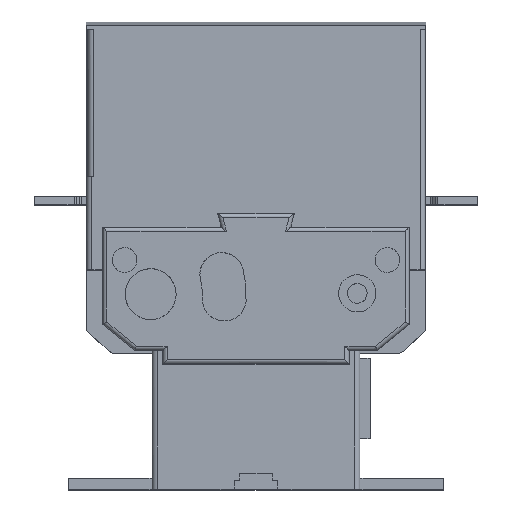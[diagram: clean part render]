
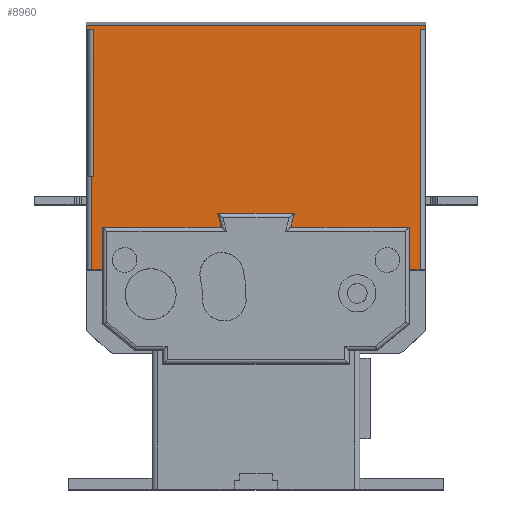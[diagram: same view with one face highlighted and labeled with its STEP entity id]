
A CAD part, top view. The second image highlights one B-rep face of the part: STEP entity #8960.
In plain terms, the highlighted planar face has unit normal (0, 0, 1).
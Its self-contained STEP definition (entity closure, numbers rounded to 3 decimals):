
#391 = CARTESIAN_POINT ( 'NONE',  ( 681.525, 542.016, 152. ) ) ;
#1598 = CARTESIAN_POINT ( 'NONE',  ( 803.525, 597.336, 152. ) ) ;
#1603 = LINE ( 'NONE', #1598, #5645 ) ;
#1607 = DIRECTION ( 'NONE',  ( 0., -1., 0. ) ) ;
#1754 = LINE ( 'NONE', #1756, #5528 ) ;
#1756 = CARTESIAN_POINT ( 'NONE',  ( 679.525, 597.336, 152. ) ) ;
#1757 = DIRECTION ( 'NONE',  ( 0., -1., 0. ) ) ;
#2071 = LINE ( 'NONE', #2074, #5382 ) ;
#2074 = CARTESIAN_POINT ( 'NONE',  ( 789.525, 508.016, 152. ) ) ;
#2105 = DIRECTION ( 'NONE',  ( -1., 0., 0. ) ) ;
#2106 = EDGE_LOOP ( 'NONE', ( #8194, #8195, #8190, #8191, #8192, #7554, #7553, #7570, #7551, #7549, #7555, #8202, #8129, #8131, #8130, #8126, #8127, #8199 ) ) ;
#2766 = VERTEX_POINT ( 'NONE', #7415 ) ;
#2899 = LINE ( 'NONE', #2902, #5161 ) ;
#2902 = CARTESIAN_POINT ( 'NONE',  ( 680.025, 508.016, 152. ) ) ;
#2904 = DIRECTION ( 'NONE',  ( -1., 0., 0. ) ) ;
#2941 = VERTEX_POINT ( 'NONE', #7640 ) ;
#3283 = VERTEX_POINT ( 'NONE', #7633 ) ;
#3841 = VERTEX_POINT ( 'NONE', #12647 ) ;
#3863 = VERTEX_POINT ( 'NONE', #12642 ) ;
#3904 = VERTEX_POINT ( 'NONE', #12626 ) ;
#3911 = VERTEX_POINT ( 'NONE', #12623 ) ;
#3918 = VERTEX_POINT ( 'NONE', #12624 ) ;
#3939 = VERTEX_POINT ( 'NONE', #12617 ) ;
#3946 = VERTEX_POINT ( 'NONE', #12611 ) ;
#3951 = VERTEX_POINT ( 'NONE', #12609 ) ;
#3953 = VERTEX_POINT ( 'NONE', #12612 ) ;
#3959 = VERTEX_POINT ( 'NONE', #12610 ) ;
#3962 = VERTEX_POINT ( 'NONE', #12614 ) ;
#3964 = VERTEX_POINT ( 'NONE', #12605 ) ;
#4016 = VERTEX_POINT ( 'NONE', #12594 ) ;
#4067 = VERTEX_POINT ( 'NONE', #12570 ) ;
#4167 = VERTEX_POINT ( 'NONE', #391 ) ;
#4328 = CARTESIAN_POINT ( 'NONE',  ( 801.025, 592.646, 152. ) ) ;
#4350 = FACE_OUTER_BOUND ( 'NONE', #2106, .T. ) ;
#4351 = PLANE ( 'NONE',  #4766 ) ;
#4354 = DIRECTION ( 'NONE',  ( 0., 0., -1. ) ) ;
#4355 = DIRECTION ( 'NONE',  ( -1., 0., 0. ) ) ;
#4655 = VECTOR ( 'NONE', #4871, 1000. ) ;
#4657 = VECTOR ( 'NONE', #4864, 1000. ) ;
#4658 = VECTOR ( 'NONE', #4858, 1000. ) ;
#4660 = VECTOR ( 'NONE', #4852, 1000. ) ;
#4671 = VECTOR ( 'NONE', #4845, 1000. ) ;
#4680 = VECTOR ( 'NONE', #4833, 1000. ) ;
#4682 = VECTOR ( 'NONE', #4826, 1000. ) ;
#4684 = VECTOR ( 'NONE', #4819, 1000. ) ;
#4686 = VECTOR ( 'NONE', #4813, 1000. ) ;
#4690 = VECTOR ( 'NONE', #4807, 1000. ) ;
#4697 = VECTOR ( 'NONE', #4795, 1000. ) ;
#4708 = VECTOR ( 'NONE', #4839, 1000. ) ;
#4713 = VECTOR ( 'NONE', #4800, 1000. ) ;
#4716 = VECTOR ( 'NONE', #4765, 1000. ) ;
#4744 = LINE ( 'NONE', #4761, #4716 ) ;
#4752 = LINE ( 'NONE', #4835, #4708 ) ;
#4761 = CARTESIAN_POINT ( 'NONE',  ( 682.025, 592.646, 152. ) ) ;
#4765 = DIRECTION ( 'NONE',  ( 0., 1., 0. ) ) ;
#4766 = AXIS2_PLACEMENT_3D ( 'NONE', #4328, #4354, #4355 ) ;
#4776 = LINE ( 'NONE', #4797, #4713 ) ;
#4792 = LINE ( 'NONE', #4794, #4697 ) ;
#4794 = CARTESIAN_POINT ( 'NONE',  ( 801.525, 592.646, 152. ) ) ;
#4795 = DIRECTION ( 'NONE',  ( 0., -1., 0. ) ) ;
#4797 = CARTESIAN_POINT ( 'NONE',  ( 803.525, 595.836, 152. ) ) ;
#4800 = DIRECTION ( 'NONE',  ( 1., 0., 0. ) ) ;
#4802 = LINE ( 'NONE', #4805, #4690 ) ;
#4805 = CARTESIAN_POINT ( 'NONE',  ( 803.525, 597.336, 152. ) ) ;
#4807 = DIRECTION ( 'NONE',  ( 1., 0., 0. ) ) ;
#4808 = LINE ( 'NONE', #4811, #4686 ) ;
#4811 = CARTESIAN_POINT ( 'NONE',  ( 803.525, 595.836, 152. ) ) ;
#4813 = DIRECTION ( 'NONE',  ( 1., 0., 0. ) ) ;
#4815 = LINE ( 'NONE', #4818, #4684 ) ;
#4818 = CARTESIAN_POINT ( 'NONE',  ( 680.025, 542.016, 152. ) ) ;
#4819 = DIRECTION ( 'NONE',  ( -1., 0., 0. ) ) ;
#4821 = LINE ( 'NONE', #4824, #4682 ) ;
#4824 = CARTESIAN_POINT ( 'NONE',  ( 681.525, 592.646, 152. ) ) ;
#4826 = DIRECTION ( 'NONE',  ( 0., 1., 0. ) ) ;
#4828 = LINE ( 'NONE', #4831, #4680 ) ;
#4831 = CARTESIAN_POINT ( 'NONE',  ( 685.525, 592.646, 152. ) ) ;
#4833 = DIRECTION ( 'NONE',  ( 0., -1., 0. ) ) ;
#4835 = CARTESIAN_POINT ( 'NONE',  ( 801.025, 523.616, 152. ) ) ;
#4839 = DIRECTION ( 'NONE',  ( -1., 0., 0. ) ) ;
#4841 = LINE ( 'NONE', #4843, #4671 ) ;
#4843 = CARTESIAN_POINT ( 'NONE',  ( 727.525, 528.616, 152. ) ) ;
#4845 = DIRECTION ( 'NONE',  ( 0.242, -0.97, 0. ) ) ;
#4847 = LINE ( 'NONE', #4850, #4660 ) ;
#4850 = CARTESIAN_POINT ( 'NONE',  ( 801.025, 528.616, 152. ) ) ;
#4852 = DIRECTION ( 'NONE',  ( -1., 0., 0. ) ) ;
#4853 = LINE ( 'NONE', #4856, #4658 ) ;
#4856 = CARTESIAN_POINT ( 'NONE',  ( 754.279, 523.616, 152. ) ) ;
#4858 = DIRECTION ( 'NONE',  ( 0.242, 0.97, 0. ) ) ;
#4860 = LINE ( 'NONE', #4863, #4657 ) ;
#4863 = CARTESIAN_POINT ( 'NONE',  ( 801.025, 523.616, 152. ) ) ;
#4864 = DIRECTION ( 'NONE',  ( -1., 0., 0. ) ) ;
#4866 = LINE ( 'NONE', #4869, #4655 ) ;
#4869 = CARTESIAN_POINT ( 'NONE',  ( 797.525, 592.646, 152. ) ) ;
#4871 = DIRECTION ( 'NONE',  ( 0., 1., 0. ) ) ;
#5161 = VECTOR ( 'NONE', #2904, 1000. ) ;
#5382 = VECTOR ( 'NONE', #2105, 1000. ) ;
#5528 = VECTOR ( 'NONE', #1757, 1000. ) ;
#5645 = VECTOR ( 'NONE', #1607, 1000. ) ;
#7415 = CARTESIAN_POINT ( 'NONE',  ( 754.279, 523.616, 152. ) ) ;
#7549 = ORIENTED_EDGE ( 'NONE', *, *, #8800, .F. ) ;
#7551 = ORIENTED_EDGE ( 'NONE', *, *, #9003, .F. ) ;
#7553 = ORIENTED_EDGE ( 'NONE', *, *, #8995, .F. ) ;
#7554 = ORIENTED_EDGE ( 'NONE', *, *, #9001, .T. ) ;
#7555 = ORIENTED_EDGE ( 'NONE', *, *, #9004, .F. ) ;
#7570 = ORIENTED_EDGE ( 'NONE', *, *, #9002, .T. ) ;
#7633 = CARTESIAN_POINT ( 'NONE',  ( 803.525, 597.336, 152. ) ) ;
#7640 = CARTESIAN_POINT ( 'NONE',  ( 681.525, 508.016, 152. ) ) ;
#8126 = ORIENTED_EDGE ( 'NONE', *, *, #9009, .F. ) ;
#8127 = ORIENTED_EDGE ( 'NONE', *, *, #9010, .F. ) ;
#8129 = ORIENTED_EDGE ( 'NONE', *, *, #9006, .F. ) ;
#8130 = ORIENTED_EDGE ( 'NONE', *, *, #9008, .F. ) ;
#8131 = ORIENTED_EDGE ( 'NONE', *, *, #9007, .F. ) ;
#8190 = ORIENTED_EDGE ( 'NONE', *, *, #8654, .F. ) ;
#8191 = ORIENTED_EDGE ( 'NONE', *, *, #9000, .F. ) ;
#8192 = ORIENTED_EDGE ( 'NONE', *, *, #8699, .T. ) ;
#8194 = ORIENTED_EDGE ( 'NONE', *, *, #8998, .F. ) ;
#8195 = ORIENTED_EDGE ( 'NONE', *, *, #8999, .T. ) ;
#8199 = ORIENTED_EDGE ( 'NONE', *, *, #8735, .F. ) ;
#8202 = ORIENTED_EDGE ( 'NONE', *, *, #9005, .F. ) ;
#8654 = EDGE_CURVE ( 'NONE', #3283, #4016, #1603, .T. ) ;
#8699 = EDGE_CURVE ( 'NONE', #3918, #3911, #1754, .T. ) ;
#8735 = EDGE_CURVE ( 'NONE', #4067, #3841, #2071, .T. ) ;
#8800 = EDGE_CURVE ( 'NONE', #3904, #2941, #2899, .T. ) ;
#8960 = ADVANCED_FACE ( 'NONE', ( #4350 ), #4351, .F. ) ;
#8995 = EDGE_CURVE ( 'NONE', #3964, #3953, #4744, .T. ) ;
#8998 = EDGE_CURVE ( 'NONE', #3959, #4067, #4792, .T. ) ;
#8999 = EDGE_CURVE ( 'NONE', #3959, #4016, #4776, .T. ) ;
#9000 = EDGE_CURVE ( 'NONE', #3918, #3283, #4802, .T. ) ;
#9001 = EDGE_CURVE ( 'NONE', #3911, #3953, #4808, .T. ) ;
#9002 = EDGE_CURVE ( 'NONE', #3964, #4167, #4815, .T. ) ;
#9003 = EDGE_CURVE ( 'NONE', #2941, #4167, #4821, .T. ) ;
#9004 = EDGE_CURVE ( 'NONE', #3951, #3904, #4828, .T. ) ;
#9005 = EDGE_CURVE ( 'NONE', #3939, #3951, #4752, .T. ) ;
#9006 = EDGE_CURVE ( 'NONE', #3962, #3939, #4841, .T. ) ;
#9007 = EDGE_CURVE ( 'NONE', #3946, #3962, #4847, .T. ) ;
#9008 = EDGE_CURVE ( 'NONE', #2766, #3946, #4853, .T. ) ;
#9009 = EDGE_CURVE ( 'NONE', #3863, #2766, #4860, .T. ) ;
#9010 = EDGE_CURVE ( 'NONE', #3841, #3863, #4866, .T. ) ;
#12570 = CARTESIAN_POINT ( 'NONE',  ( 801.525, 508.016, 152. ) ) ;
#12594 = CARTESIAN_POINT ( 'NONE',  ( 803.525, 595.836, 152. ) ) ;
#12605 = CARTESIAN_POINT ( 'NONE',  ( 682.025, 542.016, 152. ) ) ;
#12609 = CARTESIAN_POINT ( 'NONE',  ( 685.525, 523.616, 152. ) ) ;
#12610 = CARTESIAN_POINT ( 'NONE',  ( 801.525, 595.836, 152. ) ) ;
#12611 = CARTESIAN_POINT ( 'NONE',  ( 755.525, 528.616, 152. ) ) ;
#12612 = CARTESIAN_POINT ( 'NONE',  ( 682.025, 595.836, 152. ) ) ;
#12614 = CARTESIAN_POINT ( 'NONE',  ( 727.525, 528.616, 152. ) ) ;
#12617 = CARTESIAN_POINT ( 'NONE',  ( 728.771, 523.616, 152. ) ) ;
#12623 = CARTESIAN_POINT ( 'NONE',  ( 679.525, 595.836, 152. ) ) ;
#12624 = CARTESIAN_POINT ( 'NONE',  ( 679.525, 597.336, 152. ) ) ;
#12626 = CARTESIAN_POINT ( 'NONE',  ( 685.525, 508.016, 152. ) ) ;
#12642 = CARTESIAN_POINT ( 'NONE',  ( 797.525, 523.616, 152. ) ) ;
#12647 = CARTESIAN_POINT ( 'NONE',  ( 797.525, 508.016, 152. ) ) ;
